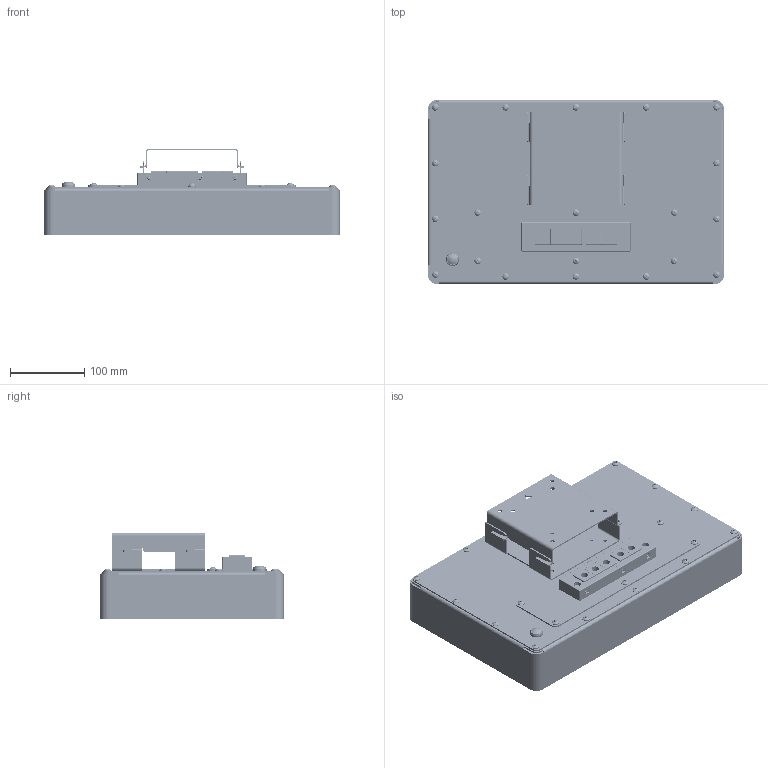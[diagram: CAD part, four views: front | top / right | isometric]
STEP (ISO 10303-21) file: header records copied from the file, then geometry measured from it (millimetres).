
FILE_DESCRIPTION (( 'STEP AP203' ), '1' );
FILE_NAME ('K156S-PC-with-wallmount.STEP', '2026-08-03T10:37:13', ( '' ), ( '' ), 'SwSTEP 2.0', 'SolidWorks 2025', '' );
FILE_SCHEMA (( 'CONFIG_CONTROL_DESIGN' ));
Length unit declared in the file: millimetre
Products named in the file (49): IPPC00-28 Backpanel ALN35; ITW 59111_ring; K156S-PC-with-wallmount; ITW 59111; K156S-12 Panelframe; G156HCE-L01; 48250_10; IPPC00-13 Montageplaat klein; 48250_09; Meanwell IRM-60-12ST; IPPC00-10 Connector cover; ALN-35 met heatspreader; TEST BS-M4-8 RVS blinde inpersafstandsteun; 48250_12; ALN35-Without_heatsink; 48250_08; K-UNI-01 Componenten assembly_15.6"; ITW 59111_locknut; GPC-156G-PD-G03B.; WM04-10 Plaatdeel kast; WM04-11 Plaatdeel muur; 48250_07; 48250_06; K156S-13 backcover; Sealing^K156S-00 Assembly; Tubtara M4 HUKX30; DIN 967 - M4 x 12 - Z --- 10.6N_DIN 967 - M4 x 12 - Z --- 10.6N; 48250_05; 48250_13; 48250_03; 48250; K156S-10 Front; ITW 59111_button; K156S-15 Displaystrip; 48250_04; Part2^K156S-00 Assembly; S-M3-1-ZI Inpersmoer; Tubtara M4 HUKX20; K156S-11 Glassmount; 48250_02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
Assembly tree (93 placements, depth 4):
  K156S-PC-with-wallmount
    K156S-10 Front
      K156S-10 Front
      Tubtara M4 HUKX30  x14
    K156S-11 Glassmount
    K156S-12 Panelframe
    K156S-13 backcover
      K156S-13 backcover
      Tubtara M4 HUKX20  x6
      TEST BS-M4-8 RVS blinde inpersafstandsteun  x4
    K-UNI-01 Componenten assembly_15.6"
      IPPC00-10 Connector cover
        IPPC00-10 Connector cover
        S-M5-2-ZI Inpersmoer  x2
      48250
        48250_01
        48250_02
        48250_03
        48250_04
        48250_05
        48250_06
        48250_07
        48250_08
        48250_09
        48250_10
        48250_11
        48250_12
        48250_13
      ALN-35 met heatspreader
        ALN35-10 Heatspreader
        ALN35-Without_heatsink
      IPPC00-28 Backpanel ALN35
      Meanwell IRM-60-12ST
      IPPC00-13 Montageplaat klein
        IPPC00-13 Montageplaat klein
        S-M3-1-ZI Inpersmoer  x4
    G156HCE-L01
    GPC-156G-PD-G03B.
    Sealing^K156S-00 Assembly
    ITW 59111
      ITW 59111_button
      ITW 59111_ring
      ITW 59111_locknut
    DIN 967 - M4 x 12 - Z --- 10.6N_DIN 967 - M4 x 12 - Z --- 10.6N  x20
    K156S-15 Displaystrip  x2
    Part2^K156S-00 Assembly
    WM04-00 Vlakke wandsteun Assembly
      WM04-10 Plaatdeel kast
      WM04-11 Plaatdeel muur
Bounding box: 399 x 248 x 116 mm (x, y, z)
Volume: 1956596.8 mm3; surface area: 1327951.8 mm2
Topology: 83 solids, 347 shells, 6732 faces, 28065 edges, 21456 vertices
Faces by surface type: plane 4588, cylinder 1444, cone 322, bspline 243, torus 75, sphere 60
Full cylindrical faces by diameter (mm): 1.397 x2, 2.5 x9, 3 x4, 3.4 x40, 3.5 x8, 4 x34, 4.008 x14, 4.04 x14, 4.2 x9, 4.3 x4, 4.41 x2, 4.5 x6, 5 x31, 5.104 x1, 5.2 x5, 5.5 x20, 5.8 x2, 6 x28, 6.2 x10, 6.3 x4, 6.4 x2, 6.48 x2, 6.5 x4, 7.1 x4, 7.22 x4, 8.5 x3, 8.7 x2, 9 x1, 10 x25, 11.43 x1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
Entity records: 278432 total; most frequent: CARTESIAN_POINT 82636, ORIENTED_EDGE 36009, DIRECTION 34319, EDGE_CURVE 24994, VERTEX_POINT 19670, VECTOR 15161, LINE 15161, AXIS2_PLACEMENT_3D 9579
